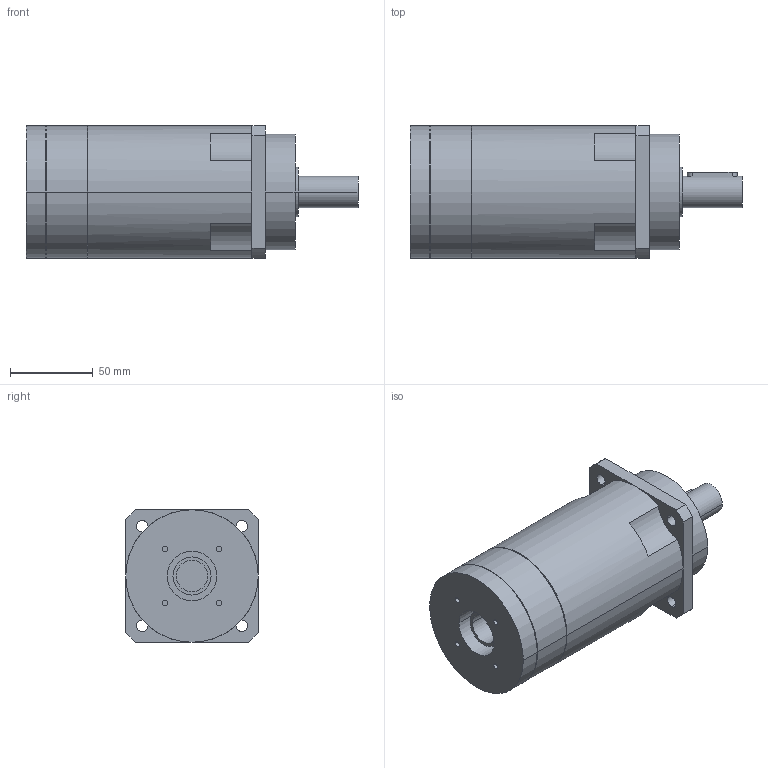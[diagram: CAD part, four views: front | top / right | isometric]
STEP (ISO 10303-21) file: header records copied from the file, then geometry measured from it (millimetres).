
FILE_DESCRIPTION(('CoCreate Modeling STEP Export'),'2;1');
FILE_NAME('GPR100_ig-48-64-80-100-120-144-180-216_19_B5_19_P24.stp','2014-08-26T11:56:28',(''),(''),'CoCreate Modeling STEP processor for AP214 (Solid Model)','CoCreate Modeling 16.00C 25-Feb-2009 (C) Parametric Technology GmbH','');
FILE_SCHEMA(('AUTOMOTIVE_DESIGN { 1 0 10303 214 1 1 1 1 }'));
Length unit declared in the file: millimetre
Products named in the file (2): GPR100_ig-48-64-80-100-120-144-180-216_19_B5_19_P24
Assembly tree (1 placements, depth 2):
  GPR100_ig-48-64-80-100-120-144-180-216_19_B5_19_P24
    GPR100_ig-48-64-80-100-120-144-180-216_19_B5_19_P24
Bounding box: 200.4 x 80 x 80 mm (x, y, z)
Volume: 791073.1 mm3; surface area: 61657.5 mm2
Topology: 1 solids, 1 shells, 81 faces, 211 edges, 143 vertices
Faces by surface type: cylinder 46, plane 29, cone 6
Entity records: 2239 total; most frequent: ORIENTED_EDGE 418, CARTESIAN_POINT 409, DIRECTION 326, EDGE_CURVE 209, VERTEX_POINT 143, AXIS2_PLACEMENT_3D 124, EDGE_LOOP 102, FACE_OUTER_BOUND 81
